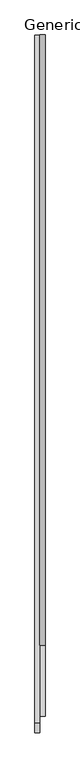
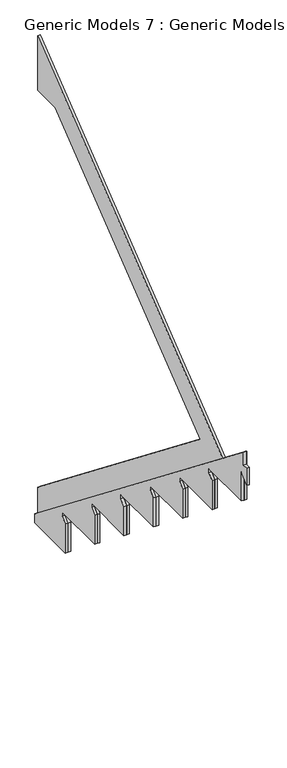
"""IFC4 building model written with IfcOpenShell, lengths in millimetres: proxy geometry, Generic Models 7 : Generic Models 7."""

from ifc_helpers import new_model, si_unit, frame, origin, place, context, project, spatial, polyline, outline, extrude, source, transform, mapped, element, save


def generic_models_7_generic_models_7_fadefc11(model_context):
    return source(origin(), model_context, "Body", "SweptSolid", [
        extrude(outline(polyline([(3352.8, 428.4696343), (3352.8, 382.5875), (3101.5214303, 382.5875), (3101.5214303, 529.43125), (3126.9214303, 554.83125), (3126.9214303, 573.88125), (2858.4071636, 573.88125), (2858.4071636, 720.725), (2883.8071636, 746.125), (2883.8071636, 765.175), (2615.2928606, 765.175), (2615.2928606, 912.01875), (2640.6928606, 937.41875), (2640.6928606, 956.46875), (2372.1785576, 956.46875), (2372.1785576, 1103.3125), (2397.5785576, 1128.7125), (2397.5785576, 1147.7625), (2129.0643272, 1147.7625), (2129.0643272, 1294.60625), (2154.4643272, 1320.00625), (2154.4643272, 1339.05625), (1885.9499516, 1339.05625), (1885.9499516, 1485.9), (1911.3499516, 1511.3), (1911.3499516, 1530.35), (1642.8357212, 1530.35), (1642.8357212, 1677.19375), (1600.2000484, 1634.5580772), (1600.2000484, 1721.64375), (1625.6000484, 1721.64375), (1625.6000484, 1787.5116636), (3352.8, 428.4696343)])), frame((5080.0, 0.0, 0.0), z_axis=(1.0, 0.0, 0.0), x_axis=(0.0, 1.0, 0.0)), (0.0, 0.0, 1.0), 12.7),
        extrude(outline(polyline([(3352.8, 382.5875), (3101.5214303, 382.5875), (3101.5214303, 529.43125), (3126.9214303, 554.83125), (3126.9214303, 573.88125), (2858.4071636, 573.88125), (2858.4071636, 720.725), (2883.8071636, 746.125), (2883.8071636, 765.175), (2615.2928606, 765.175), (2615.2928606, 912.01875), (2640.6928606, 937.41875), (2640.6928606, 956.46875), (2372.1785576, 956.46875), (2372.1785576, 1103.3125), (2397.5785576, 1128.7125), (2397.5785576, 1147.7625), (2129.0643272, 1147.7625), (2129.0643272, 1294.60625), (2154.4643272, 1320.00625), (2154.4643272, 1339.05625), (1885.9499516, 1339.05625), (1885.9499516, 1485.9), (1911.3499516, 1511.3), (1911.3499516, 1530.35), (1642.8357212, 1530.35), (1642.8357212, 1773.9498269), (1819.7989632, 1634.7068381), (3352.8, 2840.6499109), (3352.8, 2565.4), (3208.3099027, 2565.4), (2004.6521861, 1618.5365273), (3352.8, 557.7505197), (3352.8, 382.5875)])), frame((5092.7, 0.0, 0.0), z_axis=(1.0, 0.0, 0.0), x_axis=(0.0, 1.0, 0.0)), (0.0, 0.0, 1.0), 12.7),
    ])


if __name__ == "__main__":
    model = new_model("IFC4")
    model_context = context("Model", 3, world=origin())
    ifc_project = project(units=[si_unit("LENGTHUNIT", "METRE", prefix="MILLI")], contexts=[model_context])
    site = spatial("IfcSite", under=ifc_project)
    building = spatial("IfcBuilding", under=site)
    placement = place(None, origin())
    generic_models_7_generic_models_7_shape = generic_models_7_generic_models_7_fadefc11(model_context)
    element("IfcBuildingElementProxy", 1, Name="Generic Models 7 : Generic Models 7", ObjectType="Generic Models 7 : Generic Models 7", at=placement, inside=building, context=model_context, shape_type="MappedRepresentation", body=[
        mapped(generic_models_7_generic_models_7_shape, transform((0.0, 0.0, 0.0), x_axis=(1.0, 0.0, 0.0), y_axis=(0.0, 1.0, 0.0), z_axis=(0.0, 0.0, 1.0))),
    ])
    save(model, "model.ifc")
